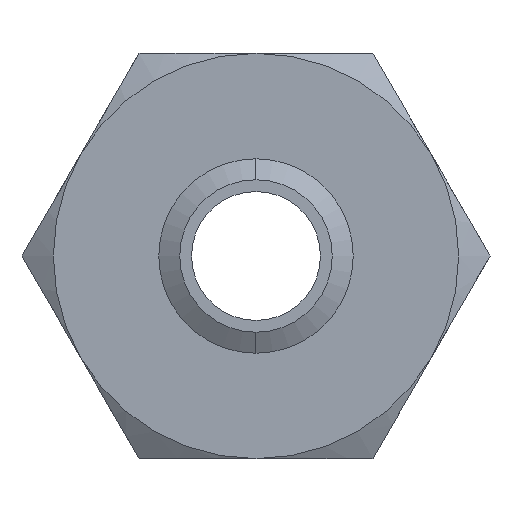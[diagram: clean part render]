
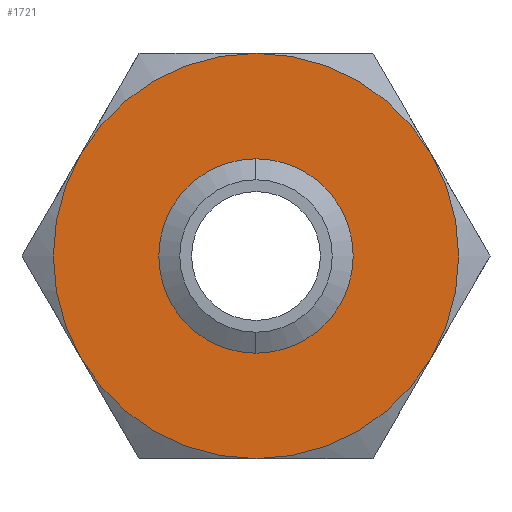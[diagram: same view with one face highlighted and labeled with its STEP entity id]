
A CAD part, front view. The second image highlights one B-rep face of the part: STEP entity #1721.
In plain terms, the highlighted planar face has unit normal (0, -1, 0).
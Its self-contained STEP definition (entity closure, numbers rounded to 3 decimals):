
#244 = EDGE_CURVE ( 'NONE', #245, #246, #770, .T. ) ;
#245 = VERTEX_POINT ( 'NONE', #762 ) ;
#246 = VERTEX_POINT ( 'NONE', #761 ) ;
#761 = CARTESIAN_POINT ( 'NONE',  ( 0., 0., 9.402 ) ) ;
#762 = CARTESIAN_POINT ( 'NONE',  ( 0., 0., -9.402 ) ) ;
#763 = DIRECTION ( 'NONE',  ( 0., 0., -1. ) ) ;
#764 = DIRECTION ( 'NONE',  ( 0., -1., 0. ) ) ;
#765 = CARTESIAN_POINT ( 'NONE',  ( 0., 0., 0. ) ) ;
#766 = AXIS2_PLACEMENT_3D ( 'NONE', #765, #764, #763 ) ;
#770 = CIRCLE ( 'NONE', #766, 9.402 ) ;
#943 = CIRCLE ( 'NONE', #1004, 25. ) ;
#944 = DIRECTION ( 'NONE',  ( 0., 0., 1. ) ) ;
#945 = DIRECTION ( 'NONE',  ( 0., 1., 0. ) ) ;
#946 = CARTESIAN_POINT ( 'NONE',  ( 14.434, 0., -25. ) ) ;
#947 = CARTESIAN_POINT ( 'NONE',  ( 0., 0., 0. ) ) ;
#948 = AXIS2_PLACEMENT_3D ( 'NONE', #946, #945, #944 ) ;
#949 = PLANE ( 'NONE',  #948 ) ;
#950 = FACE_BOUND ( 'NONE', #2006, .T. ) ;
#951 = FACE_OUTER_BOUND ( 'NONE', #1962, .T. ) ;
#1002 = DIRECTION ( 'NONE',  ( 0., 0., 1. ) ) ;
#1003 = DIRECTION ( 'NONE',  ( 0., 1., 0. ) ) ;
#1004 = AXIS2_PLACEMENT_3D ( 'NONE', #947, #1003, #1002 ) ;
#1412 = CARTESIAN_POINT ( 'NONE',  ( 0., 0., 25. ) ) ;
#1425 = CARTESIAN_POINT ( 'NONE',  ( 21.651, 0., 12.5 ) ) ;
#1430 = CARTESIAN_POINT ( 'NONE',  ( -21.651, 0., -12.5 ) ) ;
#1431 = CARTESIAN_POINT ( 'NONE',  ( -21.651, 0., 12.5 ) ) ;
#1439 = DIRECTION ( 'NONE',  ( 0., 1., 0. ) ) ;
#1440 = CARTESIAN_POINT ( 'NONE',  ( 0., 0., 0. ) ) ;
#1441 = AXIS2_PLACEMENT_3D ( 'NONE', #1440, #1439, #1500 ) ;
#1442 = CIRCLE ( 'NONE', #1441, 25. ) ;
#1443 = CARTESIAN_POINT ( 'NONE',  ( 21.651, 0., -12.5 ) ) ;
#1444 = CARTESIAN_POINT ( 'NONE',  ( 0., 0., -25. ) ) ;
#1445 = DIRECTION ( 'NONE',  ( 0., 0., 1. ) ) ;
#1446 = DIRECTION ( 'NONE',  ( 0., 1., 0. ) ) ;
#1447 = CARTESIAN_POINT ( 'NONE',  ( 0., 0., 0. ) ) ;
#1448 = AXIS2_PLACEMENT_3D ( 'NONE', #1447, #1446, #1445 ) ;
#1449 = CIRCLE ( 'NONE', #1448, 25. ) ;
#1475 = DIRECTION ( 'NONE',  ( 0., 0., -1. ) ) ;
#1476 = DIRECTION ( 'NONE',  ( 0., -1., 0. ) ) ;
#1477 = CARTESIAN_POINT ( 'NONE',  ( 0., 0., 0. ) ) ;
#1478 = AXIS2_PLACEMENT_3D ( 'NONE', #1477, #1476, #1475 ) ;
#1479 = CIRCLE ( 'NONE', #1478, 9.402 ) ;
#1480 = DIRECTION ( 'NONE',  ( 0., 0., 1. ) ) ;
#1481 = DIRECTION ( 'NONE',  ( 0., 1., 0. ) ) ;
#1482 = CARTESIAN_POINT ( 'NONE',  ( 0., 0., 0. ) ) ;
#1483 = AXIS2_PLACEMENT_3D ( 'NONE', #1482, #1481, #1480 ) ;
#1484 = CIRCLE ( 'NONE', #1483, 25. ) ;
#1485 = DIRECTION ( 'NONE',  ( 0., 0., 1. ) ) ;
#1486 = DIRECTION ( 'NONE',  ( 0., 1., 0. ) ) ;
#1487 = CARTESIAN_POINT ( 'NONE',  ( 0., 0., 0. ) ) ;
#1488 = AXIS2_PLACEMENT_3D ( 'NONE', #1487, #1486, #1485 ) ;
#1489 = CIRCLE ( 'NONE', #1488, 25. ) ;
#1495 = DIRECTION ( 'NONE',  ( 0., 0., 1. ) ) ;
#1496 = DIRECTION ( 'NONE',  ( 0., 1., 0. ) ) ;
#1497 = CARTESIAN_POINT ( 'NONE',  ( 0., 0., 0. ) ) ;
#1498 = AXIS2_PLACEMENT_3D ( 'NONE', #1497, #1496, #1495 ) ;
#1499 = CIRCLE ( 'NONE', #1498, 25. ) ;
#1500 = DIRECTION ( 'NONE',  ( 0., 0., 1. ) ) ;
#1721 = ADVANCED_FACE ( 'NONE', ( #951, #950 ), #949, .F. ) ;
#1723 = EDGE_CURVE ( 'NONE', #1978, #1969, #943, .T. ) ;
#1724 = ORIENTED_EDGE ( 'NONE', *, *, #1723, .F. ) ;
#1962 = EDGE_LOOP ( 'NONE', ( #1724, #1970, #1964, #1991, #1990, #1996 ) ) ;
#1963 = VERTEX_POINT ( 'NONE', #1431 ) ;
#1964 = ORIENTED_EDGE ( 'NONE', *, *, #2003, .F. ) ;
#1965 = VERTEX_POINT ( 'NONE', #1430 ) ;
#1969 = VERTEX_POINT ( 'NONE', #1425 ) ;
#1970 = ORIENTED_EDGE ( 'NONE', *, *, #2004, .F. ) ;
#1978 = VERTEX_POINT ( 'NONE', #1412 ) ;
#1990 = ORIENTED_EDGE ( 'NONE', *, *, #1994, .F. ) ;
#1991 = ORIENTED_EDGE ( 'NONE', *, *, #1992, .F. ) ;
#1992 = EDGE_CURVE ( 'NONE', #1993, #1965, #1449, .T. ) ;
#1993 = VERTEX_POINT ( 'NONE', #1444 ) ;
#1994 = EDGE_CURVE ( 'NONE', #1995, #1993, #1442, .T. ) ;
#1995 = VERTEX_POINT ( 'NONE', #1443 ) ;
#1996 = ORIENTED_EDGE ( 'NONE', *, *, #1999, .F. ) ;
#1999 = EDGE_CURVE ( 'NONE', #1969, #1995, #1499, .T. ) ;
#2003 = EDGE_CURVE ( 'NONE', #1965, #1963, #1489, .T. ) ;
#2004 = EDGE_CURVE ( 'NONE', #1963, #1978, #1484, .T. ) ;
#2005 = EDGE_CURVE ( 'NONE', #246, #245, #1479, .T. ) ;
#2006 = EDGE_LOOP ( 'NONE', ( #2008, #2009 ) ) ;
#2008 = ORIENTED_EDGE ( 'NONE', *, *, #244, .F. ) ;
#2009 = ORIENTED_EDGE ( 'NONE', *, *, #2005, .F. ) ;
